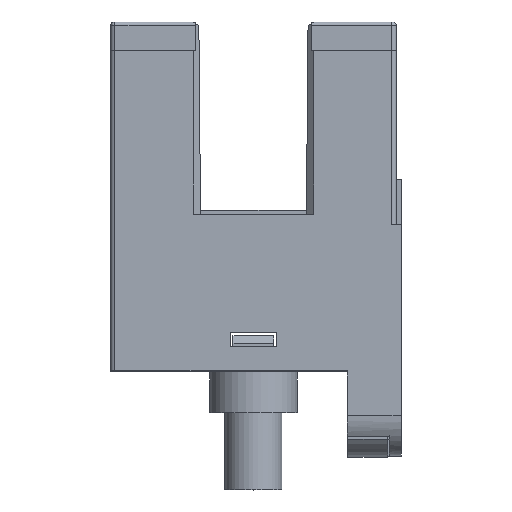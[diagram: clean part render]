
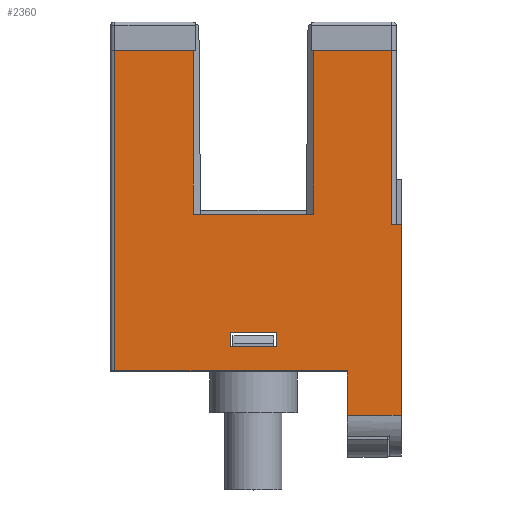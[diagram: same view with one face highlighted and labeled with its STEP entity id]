
A CAD part, top view. The second image highlights one B-rep face of the part: STEP entity #2360.
In plain terms, the highlighted planar face has unit normal (0, 0, 1).
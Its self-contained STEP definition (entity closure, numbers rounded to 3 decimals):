
#50=DIRECTION('',(0.,1.,0.));
#51=VECTOR('',#50,8.03);
#52=CARTESIAN_POINT('',(-2.95,0.025,2.95));
#53=LINE('',#52,#51);
#136=DIRECTION('',(-1.,0.,0.));
#137=VECTOR('',#136,3.85);
#138=CARTESIAN_POINT('',(-2.95,8.055,2.95));
#139=LINE('',#138,#137);
#144=DIRECTION('',(0.,-1.,0.));
#145=VECTOR('',#144,15.73);
#146=CARTESIAN_POINT('',(-6.8,8.055,2.95));
#147=LINE('',#146,#145);
#186=DIRECTION('',(1.,0.,0.));
#187=VECTOR('',#186,11.4);
#188=CARTESIAN_POINT('',(-6.8,-7.675,2.95));
#189=LINE('',#188,#187);
#310=DIRECTION('',(1.,0.,0.));
#311=VECTOR('',#310,0.45);
#312=CARTESIAN_POINT('',(6.8,-0.495,2.95));
#313=LINE('',#312,#311);
#314=DIRECTION('',(0.,-1.,0.));
#315=VECTOR('',#314,9.35);
#316=CARTESIAN_POINT('',(7.25,-0.495,2.95));
#317=LINE('',#316,#315);
#318=DIRECTION('',(0.,1.,0.));
#319=VECTOR('',#318,2.17);
#320=CARTESIAN_POINT('',(4.6,-9.845,2.95));
#321=LINE('',#320,#319);
#322=DIRECTION('',(1.,0.,0.));
#323=VECTOR('',#322,5.9);
#324=CARTESIAN_POINT('',(-2.95,0.025,2.95));
#325=LINE('',#324,#323);
#326=DIRECTION('',(0.,1.,0.));
#327=VECTOR('',#326,8.03);
#328=CARTESIAN_POINT('',(2.95,0.025,2.95));
#329=LINE('',#328,#327);
#330=DIRECTION('',(0.,1.,0.));
#331=VECTOR('',#330,0.7);
#332=CARTESIAN_POINT('',(1.15,-6.475,2.95));
#333=LINE('',#332,#331);
#334=DIRECTION('',(-1.,0.,0.));
#335=VECTOR('',#334,2.3);
#336=CARTESIAN_POINT('',(1.15,-5.775,2.95));
#337=LINE('',#336,#335);
#342=DIRECTION('',(0.,1.,0.));
#343=VECTOR('',#342,8.55);
#344=CARTESIAN_POINT('',(6.8,-0.495,2.95));
#345=LINE('',#344,#343);
#477=DIRECTION('',(-1.,0.,0.));
#478=VECTOR('',#477,3.85);
#479=CARTESIAN_POINT('',(6.8,8.055,2.95));
#480=LINE('',#479,#478);
#936=DIRECTION('',(1.,0.,0.));
#937=VECTOR('',#936,2.65);
#938=CARTESIAN_POINT('',(4.6,-9.845,2.95));
#939=LINE('',#938,#937);
#1160=DIRECTION('',(-1.,0.,0.));
#1161=VECTOR('',#1160,2.3);
#1162=CARTESIAN_POINT('',(1.15,-6.475,2.95));
#1163=LINE('',#1162,#1161);
#1168=DIRECTION('',(0.,1.,0.));
#1169=VECTOR('',#1168,0.7);
#1170=CARTESIAN_POINT('',(-1.15,-6.475,
2.95));
#1171=LINE('',#1170,#1169);
#1555=CARTESIAN_POINT('',(2.95,8.055,2.95));
#1556=VERTEX_POINT('',#1555);
#1557=CARTESIAN_POINT('',(2.95,0.025,2.95));
#1558=VERTEX_POINT('',#1557);
#1562=CARTESIAN_POINT('',(6.8,8.055,2.95));
#1564=VERTEX_POINT('',#1562);
#1567=CARTESIAN_POINT('',(-6.8,8.055,2.95));
#1569=VERTEX_POINT('',#1567);
#1573=CARTESIAN_POINT('',(-2.95,8.055,2.95));
#1574=VERTEX_POINT('',#1573);
#1577=CARTESIAN_POINT('',(6.8,-0.495,2.95));
#1578=VERTEX_POINT('',#1577);
#1668=CARTESIAN_POINT('',(1.15,-6.475,2.95));
#1669=CARTESIAN_POINT('',(1.15,-5.775,2.95));
#1670=VERTEX_POINT('',#1668);
#1671=VERTEX_POINT('',#1669);
#1676=CARTESIAN_POINT('',(-1.15,-6.475,
2.95));
#1677=CARTESIAN_POINT('',(-1.15,-5.775,
2.95));
#1678=VERTEX_POINT('',#1676);
#1679=VERTEX_POINT('',#1677);
#1703=CARTESIAN_POINT('',(-2.95,0.025,
2.95));
#1704=VERTEX_POINT('',#1703);
#1707=CARTESIAN_POINT('',(7.25,-0.495,
2.95));
#1708=VERTEX_POINT('',#1707);
#1709=CARTESIAN_POINT('',(7.25,-9.845,2.95));
#1710=VERTEX_POINT('',#1709);
#1711=CARTESIAN_POINT('',(4.6,-9.845,2.95));
#1712=VERTEX_POINT('',#1711);
#1713=CARTESIAN_POINT('',(4.6,-7.675,2.95));
#1714=VERTEX_POINT('',#1713);
#1715=CARTESIAN_POINT('',(-6.8,-7.675,2.95));
#1716=VERTEX_POINT('',#1715);
#2325=CARTESIAN_POINT('',(0.,0.,2.95));
#2326=DIRECTION('',(0.,0.,1.));
#2327=DIRECTION('',(1.,0.,0.));
#2328=AXIS2_PLACEMENT_3D('',#2325,#2326,#2327);
#2329=PLANE('',#2328);
#2331=ORIENTED_EDGE('',*,*,#2330,.F.);
#2332=ORIENTED_EDGE('',*,*,#2313,.T.);
#2333=ORIENTED_EDGE('',*,*,#2262,.T.);
#2335=ORIENTED_EDGE('',*,*,#2334,.F.);
#2337=ORIENTED_EDGE('',*,*,#2336,.T.);
#2338=ORIENTED_EDGE('',*,*,#2178,.F.);
#2339=ORIENTED_EDGE('',*,*,#2126,.F.);
#2340=ORIENTED_EDGE('',*,*,#2113,.F.);
#2341=ORIENTED_EDGE('',*,*,#1981,.F.);
#2343=ORIENTED_EDGE('',*,*,#2342,.T.);
#2345=ORIENTED_EDGE('',*,*,#2344,.T.);
#2347=ORIENTED_EDGE('',*,*,#2346,.F.);
#2348=EDGE_LOOP('',(#2331,#2332,#2333,#2335,#2337,#2338,#2339,#2340,#2341,#2343,
#2345,#2347));
#2349=FACE_OUTER_BOUND('',#2348,.F.);
#2351=ORIENTED_EDGE('',*,*,#2350,.T.);
#2353=ORIENTED_EDGE('',*,*,#2352,.T.);
#2355=ORIENTED_EDGE('',*,*,#2354,.F.);
#2357=ORIENTED_EDGE('',*,*,#2356,.F.);
#2358=EDGE_LOOP('',(#2351,#2353,#2355,#2357));
#2359=FACE_BOUND('',#2358,.F.);
#2360=ADVANCED_FACE('',(#2349,#2359),#2329,.T.);
#1981=EDGE_CURVE('',#1704,#1574,#53,.T.);
#2113=EDGE_CURVE('',#1574,#1569,#139,.T.);
#2126=EDGE_CURVE('',#1569,#1716,#147,.T.);
#2178=EDGE_CURVE('',#1716,#1714,#189,.T.);
#2262=EDGE_CURVE('',#1708,#1710,#317,.T.);
#2313=EDGE_CURVE('',#1578,#1708,#313,.T.);
#2330=EDGE_CURVE('',#1578,#1564,#345,.T.);
#2334=EDGE_CURVE('',#1712,#1710,#939,.T.);
#2336=EDGE_CURVE('',#1712,#1714,#321,.T.);
#2342=EDGE_CURVE('',#1704,#1558,#325,.T.);
#2344=EDGE_CURVE('',#1558,#1556,#329,.T.);
#2346=EDGE_CURVE('',#1564,#1556,#480,.T.);
#2350=EDGE_CURVE('',#1670,#1671,#333,.T.);
#2352=EDGE_CURVE('',#1671,#1679,#337,.T.);
#2354=EDGE_CURVE('',#1678,#1679,#1171,.T.);
#2356=EDGE_CURVE('',#1670,#1678,#1163,.T.);
